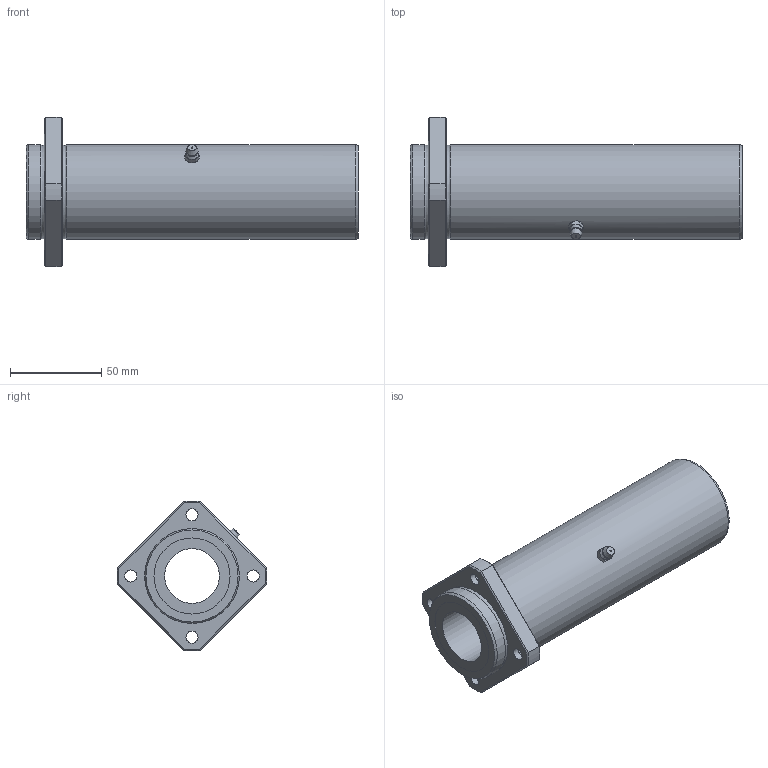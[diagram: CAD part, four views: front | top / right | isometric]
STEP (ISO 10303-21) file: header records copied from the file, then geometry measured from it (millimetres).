
FILE_DESCRIPTION((''),'2;1');
FILE_NAME('D:\製品 (図面)\カタログ用3D\リニアベアリング関連\STEP形式\LFLKB\LFLKB30.stp','2010-06-04T09:12:14',('Tsuchiya'),(''),'Autodesk Inventor 10','Autodesk Inventor 10','');
FILE_SCHEMA(('AUTOMOTIVE_DESIGN { 1 0 10303 214 1 1 1 1 }'));
Length unit declared in the file: millimetre
Products named in the file (1): LFLKB30
Bounding box: 182 x 81.94 x 81.94 mm (x, y, z)
Volume: 273491.5 mm3; surface area: 55148 mm2
Topology: 1 solids, 1 shells, 80 faces, 166 edges, 98 vertices
Faces by surface type: plane 28, cone 21, bspline 16, cylinder 11, sphere 2, torus 2
Full cylindrical faces by diameter (mm): 30 x1, 41.7 x2, 52 x2
Entity records: 2413 total; most frequent: CARTESIAN_POINT 879, DIRECTION 300, ORIENTED_EDGE 288, EDGE_CURVE 144, AXIS2_PLACEMENT_3D 133, EDGE_LOOP 122, VERTEX_POINT 96, FACE_OUTER_BOUND 80
